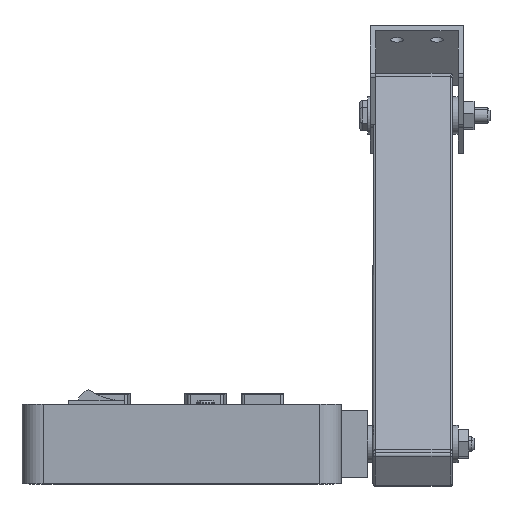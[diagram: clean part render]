
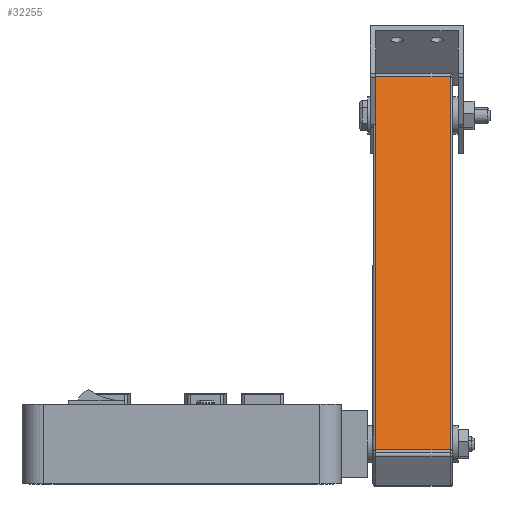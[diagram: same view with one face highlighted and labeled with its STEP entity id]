
A CAD part, left-side view. The second image highlights one B-rep face of the part: STEP entity #32255.
In plain terms, the highlighted planar face has unit normal (-0.562, 0, 0.827) as drawn and (-1, 0, 0) by its records, which use the part's own axes.
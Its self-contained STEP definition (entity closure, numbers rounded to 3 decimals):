
#1034 = VECTOR ( 'NONE', #31732, 1000. ) ;
#1050 = LINE ( 'NONE', #8639, #17606 ) ;
#1989 = VECTOR ( 'NONE', #8520, 1000. ) ;
#2172 = CARTESIAN_POINT ( 'NONE',  ( 0., 29., 250. ) ) ;
#3367 = ORIENTED_EDGE ( 'NONE', *, *, #29333, .F. ) ;
#3562 = CARTESIAN_POINT ( 'NONE',  ( 0., 29., 250. ) ) ;
#3987 = CARTESIAN_POINT ( 'NONE',  ( 0., 1., 0. ) ) ;
#4105 = CARTESIAN_POINT ( 'NONE',  ( 0., 0., 250. ) ) ;
#6074 = LINE ( 'NONE', #26484, #17886 ) ;
#6874 = EDGE_LOOP ( 'NONE', ( #7436, #14616, #3367, #21907 ) ) ;
#7436 = ORIENTED_EDGE ( 'NONE', *, *, #31114, .T. ) ;
#8520 = DIRECTION ( 'NONE',  ( 0., 0., -1. ) ) ;
#8639 = CARTESIAN_POINT ( 'NONE',  ( 0., 0., 250. ) ) ;
#8691 = LINE ( 'NONE', #3562, #1989 ) ;
#11165 = CARTESIAN_POINT ( 'NONE',  ( 0., 1., 250. ) ) ;
#11469 = DIRECTION ( 'NONE',  ( 0., -1., 0. ) ) ;
#13436 = VERTEX_POINT ( 'NONE', #16257 ) ;
#13992 = DIRECTION ( 'NONE',  ( 1., 0., 0. ) ) ;
#14301 = CARTESIAN_POINT ( 'NONE',  ( 0., 1., 250. ) ) ;
#14330 = VERTEX_POINT ( 'NONE', #2172 ) ;
#14616 = ORIENTED_EDGE ( 'NONE', *, *, #17163, .T. ) ;
#16132 = FACE_OUTER_BOUND ( 'NONE', #6874, .T. ) ;
#16257 = CARTESIAN_POINT ( 'NONE',  ( 0., 29., 0. ) ) ;
#16986 = AXIS2_PLACEMENT_3D ( 'NONE', #4105, #13992, #31522 ) ;
#17163 = EDGE_CURVE ( 'NONE', #25101, #31745, #25474, .T. ) ;
#17606 = VECTOR ( 'NONE', #11469, 1000. ) ;
#17886 = VECTOR ( 'NONE', #31408, 1000. ) ;
#21907 = ORIENTED_EDGE ( 'NONE', *, *, #32219, .T. ) ;
#23936 = PLANE ( 'NONE',  #16986 ) ;
#25101 = VERTEX_POINT ( 'NONE', #3987 ) ;
#25474 = LINE ( 'NONE', #14301, #1034 ) ;
#26484 = CARTESIAN_POINT ( 'NONE',  ( 0., 0., 0. ) ) ;
#29333 = EDGE_CURVE ( 'NONE', #14330, #31745, #1050, .T. ) ;
#31114 = EDGE_CURVE ( 'NONE', #13436, #25101, #6074, .T. ) ;
#31408 = DIRECTION ( 'NONE',  ( 0., -1., 0. ) ) ;
#31522 = DIRECTION ( 'NONE',  ( 0., 0., -1. ) ) ;
#31732 = DIRECTION ( 'NONE',  ( 0., 0., 1. ) ) ;
#31745 = VERTEX_POINT ( 'NONE', #11165 ) ;
#32219 = EDGE_CURVE ( 'NONE', #14330, #13436, #8691, .T. ) ;
#32255 = ADVANCED_FACE ( 'NONE', ( #16132 ), #23936, .F. ) ;
